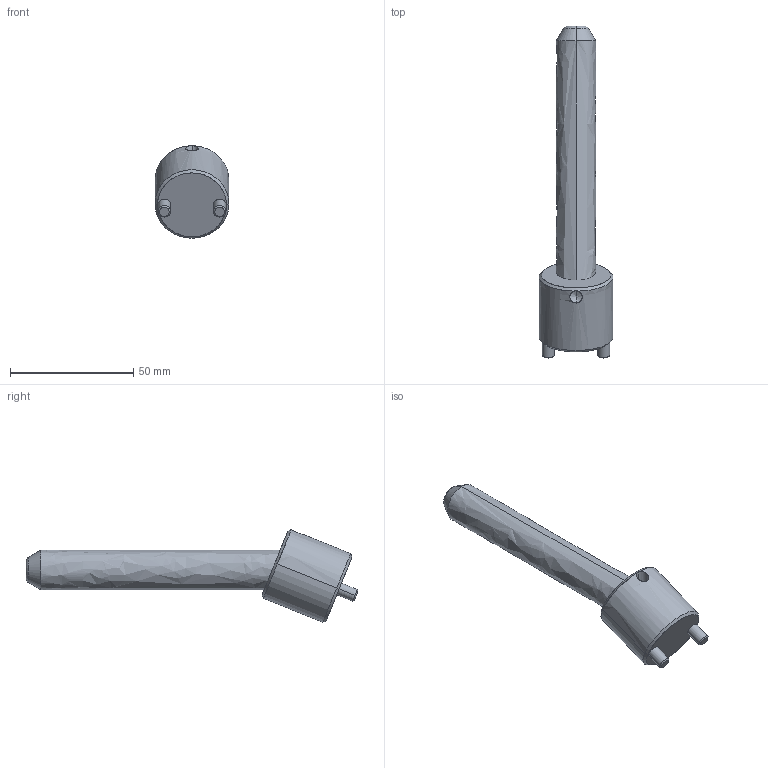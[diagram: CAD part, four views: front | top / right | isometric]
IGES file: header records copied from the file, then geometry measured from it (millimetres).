
Start section: START RECORD GO HERE.
Global section: file name: CI2216100.igs; native system: DASSAULT SYSTEMES CATIA V5 R20 - www.3ds.com; preprocessor: CATIA Version 5 Release 20 ; author: r.borello; organization: CFTORINO; date: 20190624.084808; units: millimetre
Bounding box: 30 x 134.79 x 37.53 mm (x, y, z)
Surface area: 11943.4 mm2 (no closed solid volume)
Topology: 0 solids, 0 shells, 39 faces, 168 edges, 166 vertices
Faces by surface type: revolution 32, plane 7
